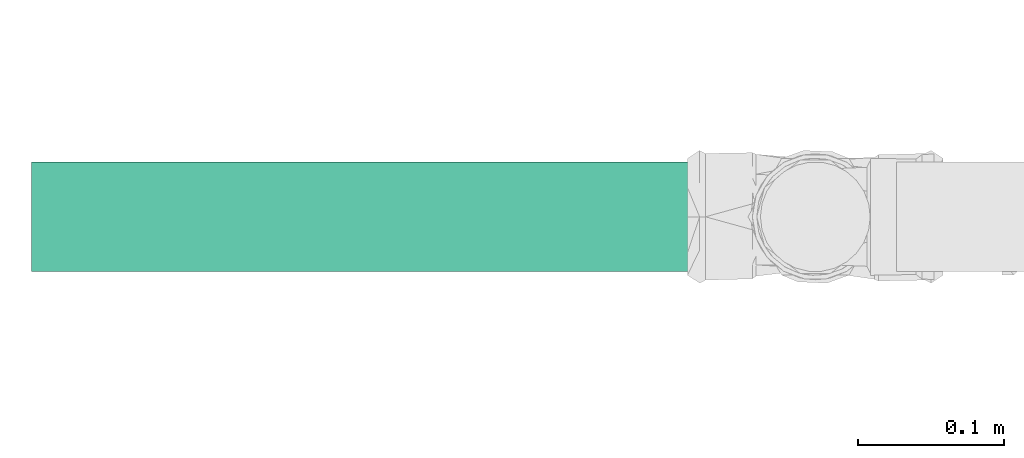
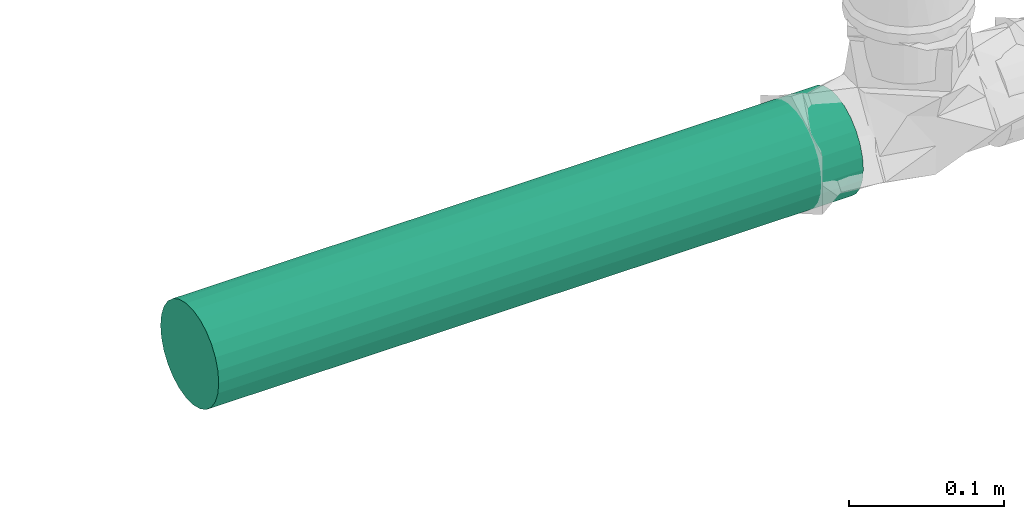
# One storey, part 55 of 166: 1 flow segment.
"""IFC2X3 building model written with IfcOpenShell, lengths in metres."""

from ifc_helpers import new_model, entity, si_unit, converted_unit, direction, frame, frame_2d, origin, place, context, subcontext, project, spatial, circle, extrude, type_object, element, save


model = new_model("IFC2X3")

# Units and contexts
model_context = context("Model", 3, precision=1e-05, world=origin(), true_north=direction((6.123233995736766e-17, 1.0)))
body_context = subcontext(model_context, "Body", "Model", "MODEL_VIEW")
ifc_project = project(units=[si_unit("LENGTHUNIT", "METRE"), converted_unit("PLANEANGLEUNIT", "DEGREE", entity("IfcPlaneAngleMeasure", 0.017453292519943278), si_unit("PLANEANGLEUNIT", "RADIAN"), dimensions=[0, 0, 0, 0, 0, 0, 0]), si_unit("AREAUNIT", "SQUARE_METRE")], contexts=[model_context])

# Site, building, storey
site_placement = place(None, origin())
site = spatial("IfcSite", under=ifc_project, at=site_placement, Name="Default", CompositionType="ELEMENT")
building_placement = place(site_placement, origin())
building = spatial("IfcBuilding", under=site, at=building_placement, Name="CASA DE ACOLHIDA PARA IDOSOS", CompositionType="ELEMENT")
storey_placement = place(building_placement, frame((0.0, 0.0, -1.7499999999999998)))
storey = spatial("IfcBuildingStorey", under=building, at=storey_placement, Name="IMPLANTAÇÃO DRENAGEM", CompositionType="ELEMENT", Elevation=-1.7499999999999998)

# Flow segment
pipe_segment_type = type_object("IfcPipeSegmentType", Name="Tipos de tubos:AF_Tubo Branco Roscável", PredefinedType="NOTDEFINED")
flow_segment_placement = place(storey_placement, origin())
element("IfcFlowSegment", 1, at=flow_segment_placement, inside=storey, type_object=pipe_segment_type, Name="Tipos de tubos:AF_Tubo Branco Roscável", ObjectType="Tipos de tubos:AF_Tubo Branco Roscável", context=body_context, shape_type="SweptSolid", body=[
    extrude(circle(Radius=0.037500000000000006, at=frame_2d((3.383959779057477e-17, 0.0), x_axis=(1.0, 0.0))), frame((-65.44258057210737, -0.25137816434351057, 0.13343317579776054), z_axis=(1.0, 0.0, 0.0), x_axis=(0.0, 1.0, 0.0)), (0.0, 0.0, 1.0), 0.4800000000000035),
])

save(model, "model.ifc")
